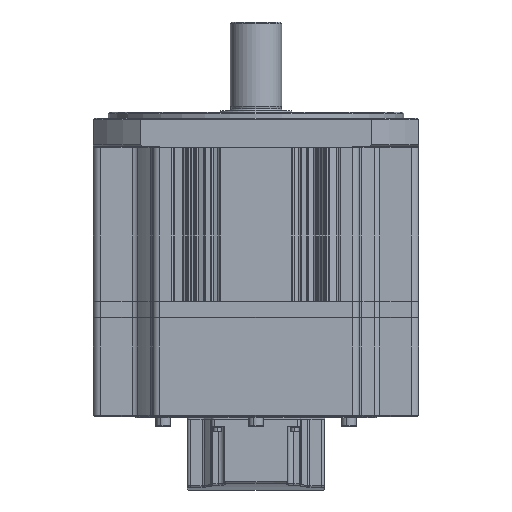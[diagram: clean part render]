
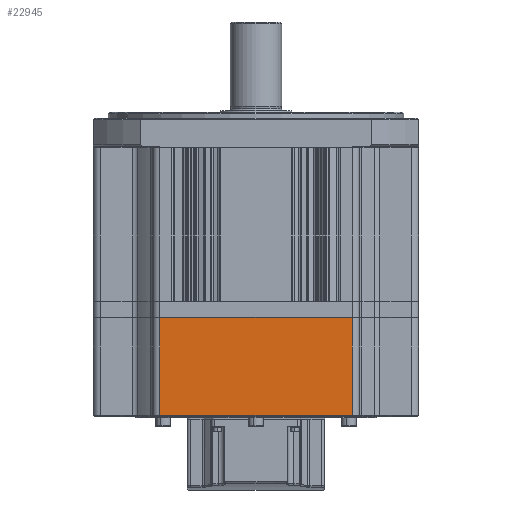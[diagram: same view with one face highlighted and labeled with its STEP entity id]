
A CAD part, front view. The second image highlights one B-rep face of the part: STEP entity #22945.
In plain terms, the highlighted planar face has unit normal (0, -1, 0).
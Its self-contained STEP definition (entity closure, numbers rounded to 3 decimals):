
#22945 = ADVANCED_FACE ( 'NONE', ( #105107 ), #105090, .F. ) ;
#34196 = ORIENTED_EDGE ( 'NONE', *, *, #102290, .T. ) ;
#34270 = ORIENTED_EDGE ( 'NONE', *, *, #102352, .F. ) ;
#34312 = ORIENTED_EDGE ( 'NONE', *, *, #102304, .T. ) ;
#34314 = ORIENTED_EDGE ( 'NONE', *, *, #102338, .T. ) ;
#47493 = EDGE_LOOP ( 'NONE', ( #34270, #34196, #34314, #34312 ) ) ;
#74085 = LINE ( 'NONE', #74100, #74600 ) ;
#74100 = CARTESIAN_POINT ( 'NONE',  ( 65., -110., -115.2 ) ) ;
#74101 = DIRECTION ( 'NONE',  ( 1., 0., 0. ) ) ;
#74103 = LINE ( 'NONE', #74109, #74598 ) ;
#74109 = CARTESIAN_POINT ( 'NONE',  ( 0., -110., -181.2 ) ) ;
#74130 = DIRECTION ( 'NONE',  ( -1., 0., 0. ) ) ;
#74162 = DIRECTION ( 'NONE',  ( 0., 0., 1. ) ) ;
#74163 = LINE ( 'NONE', #74164, #74608 ) ;
#74164 = CARTESIAN_POINT ( 'NONE',  ( 65., -110., -185.7 ) ) ;
#74165 = DIRECTION ( 'NONE',  ( 0., 0., 1. ) ) ;
#74194 = LINE ( 'NONE', #74198, #74621 ) ;
#74198 = CARTESIAN_POINT ( 'NONE',  ( -65., -110., -185.7 ) ) ;
#74598 = VECTOR ( 'NONE', #74101, 1000. ) ;
#74600 = VECTOR ( 'NONE', #74130, 1000. ) ;
#74608 = VECTOR ( 'NONE', #74165, 1000. ) ;
#74621 = VECTOR ( 'NONE', #74162, 1000. ) ;
#82219 = CARTESIAN_POINT ( 'NONE',  ( 65., -110., -181.2 ) ) ;
#82232 = CARTESIAN_POINT ( 'NONE',  ( 65., -110., -115.2 ) ) ;
#82331 = CARTESIAN_POINT ( 'NONE',  ( -65., -110., -115.2 ) ) ;
#82457 = CARTESIAN_POINT ( 'NONE',  ( -65., -110., -181.2 ) ) ;
#84480 = VERTEX_POINT ( 'NONE', #82232 ) ;
#84483 = VERTEX_POINT ( 'NONE', #82219 ) ;
#84554 = VERTEX_POINT ( 'NONE', #82331 ) ;
#84578 = VERTEX_POINT ( 'NONE', #82457 ) ;
#95908 = AXIS2_PLACEMENT_3D ( 'NONE', #105142, #105131, #105160 ) ;
#102290 = EDGE_CURVE ( 'NONE', #84578, #84483, #74103, .T. ) ;
#102304 = EDGE_CURVE ( 'NONE', #84480, #84554, #74085, .T. ) ;
#102338 = EDGE_CURVE ( 'NONE', #84483, #84480, #74163, .T. ) ;
#102352 = EDGE_CURVE ( 'NONE', #84578, #84554, #74194, .T. ) ;
#105090 = PLANE ( 'NONE',  #95908 ) ;
#105107 = FACE_OUTER_BOUND ( 'NONE', #47493, .T. ) ;
#105131 = DIRECTION ( 'NONE',  ( 0., 1., 0. ) ) ;
#105142 = CARTESIAN_POINT ( 'NONE',  ( 0., -110., -185.7 ) ) ;
#105160 = DIRECTION ( 'NONE',  ( 1., 0., 0. ) ) ;
